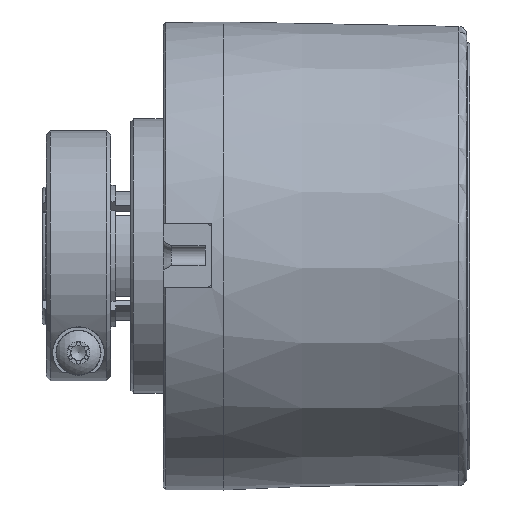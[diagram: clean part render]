
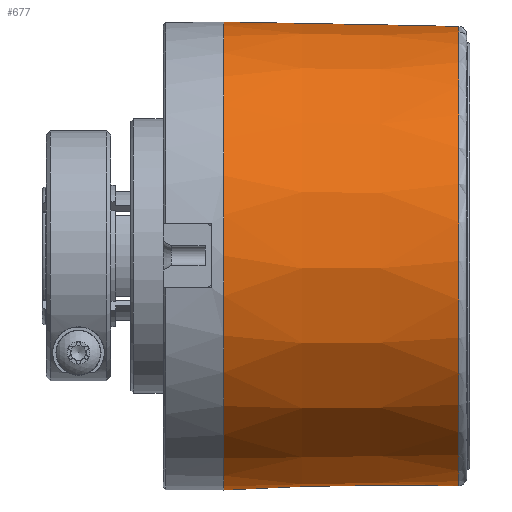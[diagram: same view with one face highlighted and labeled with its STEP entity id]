
A CAD part, top view. The second image highlights one B-rep face of the part: STEP entity #677.
In plain terms, the highlighted conical face has half-angle 1 degrees and reference radius 28.475 mm.
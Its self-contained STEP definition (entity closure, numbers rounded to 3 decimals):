
#677 = ADVANCED_FACE( '', ( #1604, #1605 ), #1606, .T. );
#1604 = FACE_OUTER_BOUND( '', #3777, .T. );
#1605 = FACE_BOUND( '', #3778, .T. );
#1606 = CONICAL_SURFACE( '', #3779, 28.475, 0.017 );
#3777 = EDGE_LOOP( '', ( #6685 ) );
#3778 = EDGE_LOOP( '', ( #6686, #6687, #6688, #6689, #6690, #6691, #6692 ) );
#3779 = AXIS2_PLACEMENT_3D( '', #6693, #6694, #6695 );
#6685 = ORIENTED_EDGE( '', *, *, #8373, .F. );
#6686 = ORIENTED_EDGE( '', *, *, #8369, .T. );
#6687 = ORIENTED_EDGE( '', *, *, #8612, .T. );
#6688 = ORIENTED_EDGE( '', *, *, #8691, .T. );
#6689 = ORIENTED_EDGE( '', *, *, #8951, .T. );
#6690 = ORIENTED_EDGE( '', *, *, #8952, .T. );
#6691 = ORIENTED_EDGE( '', *, *, #8953, .T. );
#6692 = ORIENTED_EDGE( '', *, *, #8954, .T. );
#6693 = CARTESIAN_POINT( '', ( 52.6, 0., 0. ) );
#6694 = DIRECTION( '', ( -1., 0., 0. ) );
#6695 = DIRECTION( '', ( 0., -0.002, 1. ) );
#8369 = EDGE_CURVE( '', #9453, #9451, #9454, .T. );
#8373 = EDGE_CURVE( '', #9459, #9459, #9460, .T. );
#8612 = EDGE_CURVE( '', #9451, #9870, #9872, .T. );
#8691 = EDGE_CURVE( '', #9870, #9997, #9999, .T. );
#8951 = EDGE_CURVE( '', #9997, #10396, #10397, .T. );
#8952 = EDGE_CURVE( '', #10396, #10398, #10399, .T. );
#8953 = EDGE_CURVE( '', #10398, #10400, #10401, .T. );
#8954 = EDGE_CURVE( '', #10400, #9453, #10402, .T. );
#9451 = VERTEX_POINT( '', #11033 );
#9453 = VERTEX_POINT( '', #11035 );
#9454 = CIRCLE( '', #11036, 28.492 );
#9459 = VERTEX_POINT( '', #11046 );
#9460 = CIRCLE( '', #11047, 29. );
#9870 = VERTEX_POINT( '', #11999 );
#9872 = B_SPLINE_CURVE_WITH_KNOTS( '', 3, ( #12010, #12011, #12012, #12013, #12014, #12015, #12016 ), .UNSPECIFIED., .F., .F., ( 4, 3, 4 ), ( 0., 0.002, 0.008 ), .UNSPECIFIED. );
#9997 = VERTEX_POINT( '', #12292 );
#9999 = B_SPLINE_CURVE_WITH_KNOTS( '', 3, ( #12299, #12300, #12301, #12302, #12303, #12304, #12305, #12306, #12307, #12308, #12309, #12310 ), .UNSPECIFIED., .F., .F., ( 4, 2, 2, 2, 2, 4 ), ( 0., 0.001, 0.001, 0.001, 0.002, 0.002 ), .UNSPECIFIED. );
#10396 = VERTEX_POINT( '', #13194 );
#10397 = CIRCLE( '', #13195, 28.658 );
#10398 = VERTEX_POINT( '', #13196 );
#10399 = B_SPLINE_CURVE_WITH_KNOTS( '', 3, ( #13197, #13198, #13199, #13200, #13201, #13202, #13203, #13204, #13205, #13206, #13207, #13208, #13209, #13210, #13211, #13212, #13213 ), .UNSPECIFIED., .F., .F., ( 4, 1, 1, 1, 1, 1, 1, 1, 1, 1, 1, 1, 1, 1, 4 ), ( 0., 0.056, 0.112, 0.168, 0.223, 0.278, 0.334, 0.389, 0.444, 0.499, 0.599, 0.7, 0.8, 0.9, 1. ), .UNSPECIFIED. );
#10400 = VERTEX_POINT( '', #13214 );
#10401 = B_SPLINE_CURVE_WITH_KNOTS( '', 3, ( #13215, #13216, #13217, #13218, #13219, #13220, #13221, #13222, #13223, #13224, #13225, #13226, #13227, #13228, #13229, #13230, #13231, #13232, #13233, #13234 ), .UNSPECIFIED., .F., .F., ( 4, 1, 1, 1, 1, 1, 1, 1, 1, 1, 1, 1, 1, 1, 1, 1, 1, 4 ), ( 0., 0.027, 0.057, 0.09, 0.125, 0.188, 0.25, 0.385, 0.5, 0.569, 0.625, 0.684, 0.75, 0.796, 0.875, 0.923, 0.965, 1. ), .UNSPECIFIED. );
#10402 = B_SPLINE_CURVE_WITH_KNOTS( '', 3, ( #13235, #13236, #13237, #13238 ), .UNSPECIFIED., .F., .F., ( 4, 4 ), ( 0., 0. ), .UNSPECIFIED. );
#11033 = CARTESIAN_POINT( '', ( 51.617, 23.146, -16.615 ) );
#11035 = CARTESIAN_POINT( '', ( 51.617, -20.401, -19.889 ) );
#11036 = AXIS2_PLACEMENT_3D( '', #14508, #14509, #14510 );
#11046 = CARTESIAN_POINT( '', ( 22.5, -25.115, 14.5 ) );
#11047 = AXIS2_PLACEMENT_3D( '', #14514, #14515, #14516 );
#11999 = CARTESIAN_POINT( '', ( 43.406, 23.215, -16.764 ) );
#12010 = CARTESIAN_POINT( '', ( 51.617, 23.146, -16.615 ) );
#12011 = CARTESIAN_POINT( '', ( 50.951, 23.151, -16.627 ) );
#12012 = CARTESIAN_POINT( '', ( 50.284, 23.157, -16.639 ) );
#12013 = CARTESIAN_POINT( '', ( 49.618, 23.163, -16.651 ) );
#12014 = CARTESIAN_POINT( '', ( 47.547, 23.18, -16.689 ) );
#12015 = CARTESIAN_POINT( '', ( 45.477, 23.198, -16.726 ) );
#12016 = CARTESIAN_POINT( '', ( 43.406, 23.215, -16.764 ) );
#12292 = CARTESIAN_POINT( '', ( 42.117, 22.419, -17.851 ) );
#12299 = CARTESIAN_POINT( '', ( 43.406, 23.215, -16.764 ) );
#12300 = CARTESIAN_POINT( '', ( 43.232, 23.217, -16.767 ) );
#12301 = CARTESIAN_POINT( '', ( 43.06, 23.197, -16.8 ) );
#12302 = CARTESIAN_POINT( '', ( 42.747, 23.119, -16.916 ) );
#12303 = CARTESIAN_POINT( '', ( 42.604, 23.06, -17. ) );
#12304 = CARTESIAN_POINT( '', ( 42.427, 22.95, -17.153 ) );
#12305 = CARTESIAN_POINT( '', ( 42.374, 22.91, -17.209 ) );
#12306 = CARTESIAN_POINT( '', ( 42.282, 22.823, -17.326 ) );
#12307 = CARTESIAN_POINT( '', ( 42.244, 22.777, -17.388 ) );
#12308 = CARTESIAN_POINT( '', ( 42.15, 22.632, -17.58 ) );
#12309 = CARTESIAN_POINT( '', ( 42.117, 22.527, -17.715 ) );
#12310 = CARTESIAN_POINT( '', ( 42.117, 22.419, -17.851 ) );
#13194 = CARTESIAN_POINT( '', ( 42.117, 3.392, -28.456 ) );
#13195 = AXIS2_PLACEMENT_3D( '', #15184, #15185, #15186 );
#13196 = CARTESIAN_POINT( '', ( 43.489, -3.431, -28.427 ) );
#13197 = CARTESIAN_POINT( '', ( 42.117, 3.392, -28.456 ) );
#13198 = CARTESIAN_POINT( '', ( 42.118, 3.261, -28.471 ) );
#13199 = CARTESIAN_POINT( '', ( 42.12, 3.001, -28.501 ) );
#13200 = CARTESIAN_POINT( '', ( 42.133, 2.611, -28.539 ) );
#13201 = CARTESIAN_POINT( '', ( 42.154, 2.222, -28.572 ) );
#13202 = CARTESIAN_POINT( '', ( 42.183, 1.834, -28.599 ) );
#13203 = CARTESIAN_POINT( '', ( 42.221, 1.447, -28.62 ) );
#13204 = CARTESIAN_POINT( '', ( 42.267, 1.062, -28.636 ) );
#13205 = CARTESIAN_POINT( '', ( 42.322, 0.679, -28.647 ) );
#13206 = CARTESIAN_POINT( '', ( 42.385, 0.297, -28.652 ) );
#13207 = CARTESIAN_POINT( '', ( 42.476, -0.188, -28.652 ) );
#13208 = CARTESIAN_POINT( '', ( 42.604, -0.772, -28.641 ) );
#13209 = CARTESIAN_POINT( '', ( 42.783, -1.452, -28.612 ) );
#13210 = CARTESIAN_POINT( '', ( 42.99, -2.123, -28.566 ) );
#13211 = CARTESIAN_POINT( '', ( 43.223, -2.784, -28.506 ) );
#13212 = CARTESIAN_POINT( '', ( 43.4, -3.215, -28.454 ) );
#13213 = CARTESIAN_POINT( '', ( 43.489, -3.431, -28.427 ) );
#13214 = CARTESIAN_POINT( '', ( 51.541, -20.137, -20.158 ) );
#13215 = CARTESIAN_POINT( '', ( 43.489, -3.431, -28.427 ) );
#13216 = CARTESIAN_POINT( '', ( 43.562, -3.6, -28.405 ) );
#13217 = CARTESIAN_POINT( '', ( 43.714, -3.957, -28.357 ) );
#13218 = CARTESIAN_POINT( '', ( 43.954, -4.517, -28.269 ) );
#13219 = CARTESIAN_POINT( '', ( 44.218, -5.128, -28.16 ) );
#13220 = CARTESIAN_POINT( '', ( 44.57, -5.94, -27.997 ) );
#13221 = CARTESIAN_POINT( '', ( 45.002, -6.928, -27.764 ) );
#13222 = CARTESIAN_POINT( '', ( 45.702, -8.509, -27.322 ) );
#13223 = CARTESIAN_POINT( '', ( 46.542, -10.376, -26.666 ) );
#13224 = CARTESIAN_POINT( '', ( 47.392, -12.225, -25.838 ) );
#13225 = CARTESIAN_POINT( '', ( 48.028, -13.577, -25.129 ) );
#13226 = CARTESIAN_POINT( '', ( 48.517, -14.584, -24.547 ) );
#13227 = CARTESIAN_POINT( '', ( 49.001, -15.551, -23.938 ) );
#13228 = CARTESIAN_POINT( '', ( 49.46, -16.441, -23.324 ) );
#13229 = CARTESIAN_POINT( '', ( 49.977, -17.411, -22.6 ) );
#13230 = CARTESIAN_POINT( '', ( 50.446, -18.262, -21.908 ) );
#13231 = CARTESIAN_POINT( '', ( 50.903, -19.063, -21.198 ) );
#13232 = CARTESIAN_POINT( '', ( 51.241, -19.639, -20.657 ) );
#13233 = CARTESIAN_POINT( '', ( 51.447, -19.981, -20.314 ) );
#13234 = CARTESIAN_POINT( '', ( 51.541, -20.137, -20.158 ) );
#13235 = CARTESIAN_POINT( '', ( 51.541, -20.137, -20.158 ) );
#13236 = CARTESIAN_POINT( '', ( 51.592, -20.221, -20.073 ) );
#13237 = CARTESIAN_POINT( '', ( 51.617, -20.31, -19.982 ) );
#13238 = CARTESIAN_POINT( '', ( 51.617, -20.401, -19.889 ) );
#14508 = CARTESIAN_POINT( '', ( 51.617, 0., 0. ) );
#14509 = DIRECTION( '', ( -1., 0., 0. ) );
#14510 = DIRECTION( '', ( 0., 0.002, -1. ) );
#14514 = CARTESIAN_POINT( '', ( 22.5, 0., 0. ) );
#14515 = DIRECTION( '', ( -1., 0., 0. ) );
#14516 = DIRECTION( '', ( 0., -0.866, 0.5 ) );
#15184 = CARTESIAN_POINT( '', ( 42.117, 0., 0. ) );
#15185 = DIRECTION( '', ( -1., 0., 0. ) );
#15186 = DIRECTION( '', ( 0., 0.002, -1. ) );
